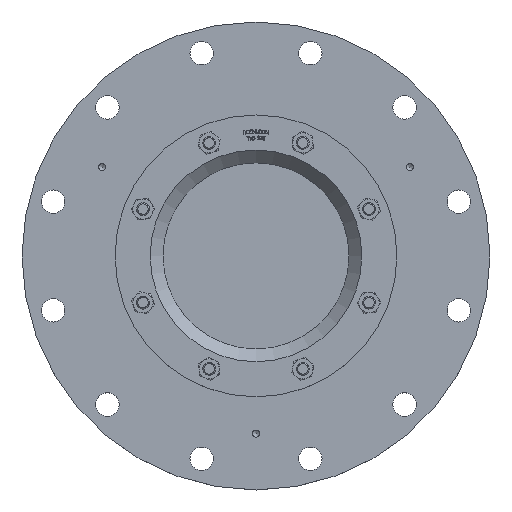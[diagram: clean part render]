
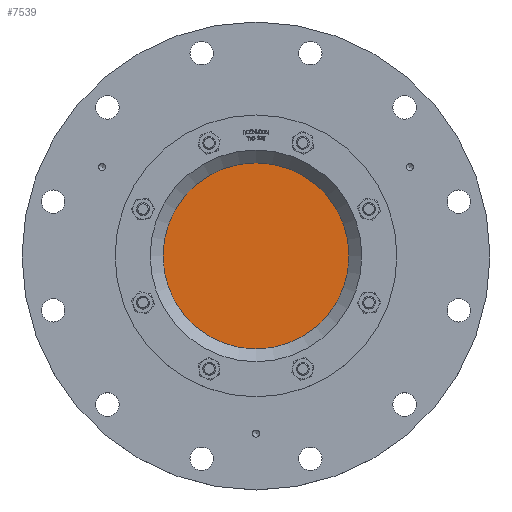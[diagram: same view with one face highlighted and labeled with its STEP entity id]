
A CAD part, top view. The second image highlights one B-rep face of the part: STEP entity #7539.
In plain terms, the highlighted planar face has unit normal (0, 0, 1).
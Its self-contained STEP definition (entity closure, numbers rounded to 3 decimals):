
#2223=FACE_OUTER_BOUND('',#2672,.T.);
#2672=EDGE_LOOP('',(#5198));
#3245=CIRCLE('',#7991,87.5);
#3419=VERTEX_POINT('',#10028);
#4127=EDGE_CURVE('',#3419,#3419,#3245,.T.);
#5198=ORIENTED_EDGE('',*,*,#4127,.F.);
#7340=PLANE('',#7990);
#7539=ADVANCED_FACE('',(#2223),#7340,.F.);
#7990=AXIS2_PLACEMENT_3D('',#10027,#8507,#8508);
#7991=AXIS2_PLACEMENT_3D('',#10029,#8509,#8510);
#8507=DIRECTION('center_axis',(0.,0.,-1.));
#8508=DIRECTION('ref_axis',(-1.,0.,0.));
#8509=DIRECTION('center_axis',(0.,0.,-1.));
#8510=DIRECTION('ref_axis',(-1.,0.,0.));
#10027=CARTESIAN_POINT('Origin',(0.,0.,51.));
#10028=CARTESIAN_POINT('',(87.5,0.,51.));
#10029=CARTESIAN_POINT('Origin',(0.,0.,51.));
